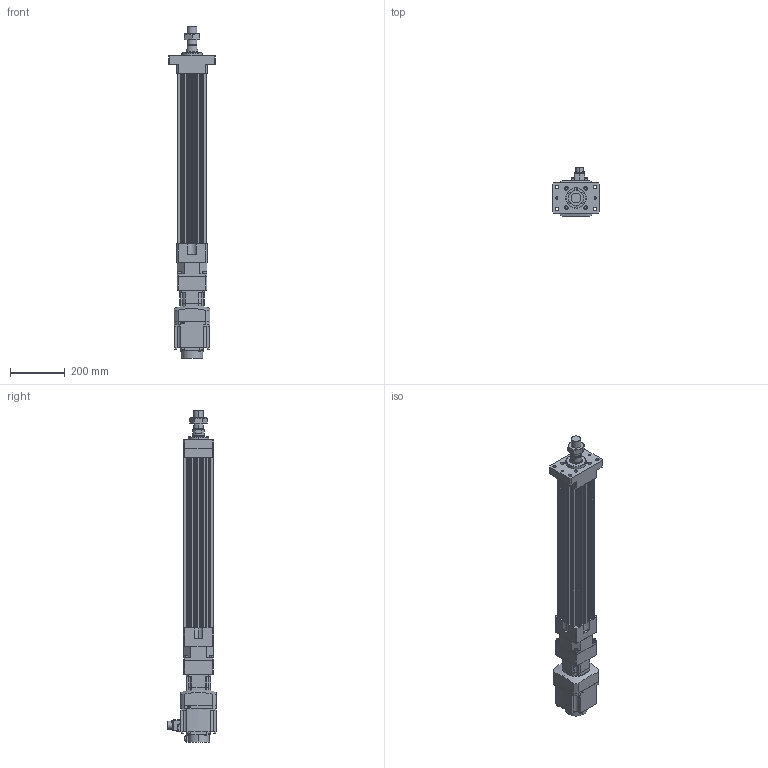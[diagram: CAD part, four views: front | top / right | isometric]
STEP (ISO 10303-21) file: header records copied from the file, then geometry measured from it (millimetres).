
FILE_DESCRIPTION (( 'STEP AP203' ), '1' );
FILE_NAME ('HES110NS(HS)-S450-W010G00-M-FM.STEP', '2023-01-27T07:24:17', ( 'tms' ), ( '' ), 'SwSTEP 2.0', 'SolidWorks 2013', '' );
FILE_SCHEMA (( 'CONFIG_CONTROL_DESIGN' ));
Length unit declared in the file: millimetre
Products named in the file (8): P0401301004; HES110-S450-G090-FM; AB090-003[HG-SR102B]; HG-SR102; HES110 ROD M ST450; AB0901; M36X1.5P; HES110NS(HS)-S450-W010G00-M-FM
Assembly tree (7 placements, depth 3):
  HES110NS(HS)-S450-W010G00-M-FM
    HES110-S450-G090-FM
    HES110 ROD M ST450
    M36X1.5P
    AB090-003[HG-SR102B]
      AB0901
      P0401301004
    HG-SR102
Bounding box: 170 x 177.49 x 1208.5 mm (x, y, z)
Volume: 7915234.6 mm3; surface area: 1071901.1 mm2
Topology: 4 solids, 15 shells, 1165 faces, 2950 edges, 1921 vertices
Faces by surface type: plane 558, cylinder 523, cone 72, bspline 8, torus 4
Entity records: 37081 total; most frequent: CARTESIAN_POINT 7224, DIRECTION 6367, ORIENTED_EDGE 5848, EDGE_CURVE 2934, AXIS2_PLACEMENT_3D 2335, VERTEX_POINT 1921, LINE 1697, VECTOR 1697
